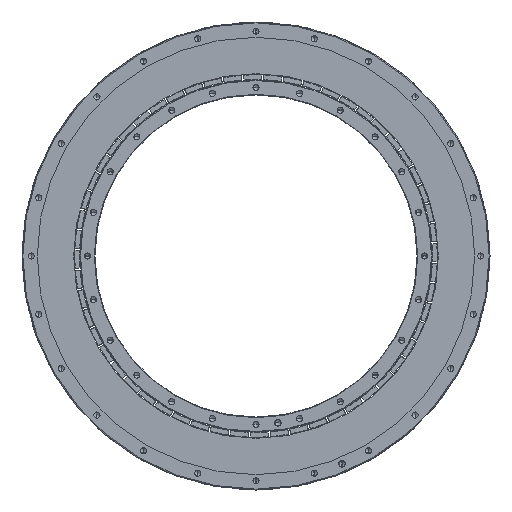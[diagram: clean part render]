
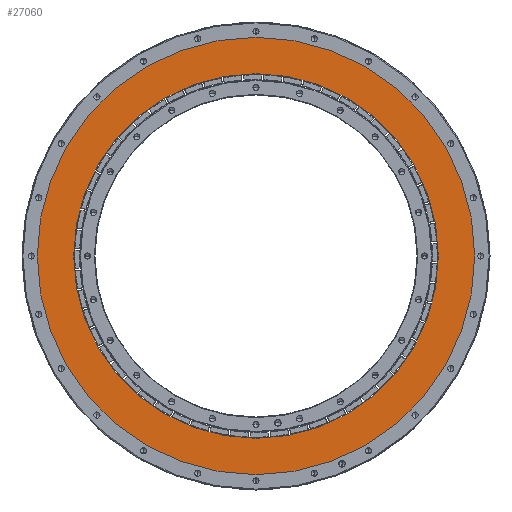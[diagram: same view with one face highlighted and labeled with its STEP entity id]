
A CAD part, front view. The second image highlights one B-rep face of the part: STEP entity #27060.
In plain terms, the highlighted planar face has unit normal (0, -1, 0).
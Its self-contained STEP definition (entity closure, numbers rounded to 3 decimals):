
#2353 = AXIS2_PLACEMENT_3D ( 'NONE', #22654, #35782, #19166 ) ;
#3346 = PLANE ( 'NONE',  #38227 ) ;
#5618 = ORIENTED_EDGE ( 'NONE', *, *, #18269, .F. ) ;
#6852 = VERTEX_POINT ( 'NONE', #13666 ) ;
#7797 = CARTESIAN_POINT ( 'NONE',  ( 0., -79., 0. ) ) ;
#7914 = CARTESIAN_POINT ( 'NONE',  ( 0., -79., 179.93 ) ) ;
#8099 = EDGE_CURVE ( 'NONE', #20396, #39696, #37208, .T. ) ;
#10173 = DIRECTION ( 'NONE',  ( 0., -1., 0. ) ) ;
#10603 = DIRECTION ( 'NONE',  ( 0., -1., 0. ) ) ;
#11697 = CIRCLE ( 'NONE', #17186, 179.93 ) ;
#13446 = CARTESIAN_POINT ( 'NONE',  ( 0., -79., -150. ) ) ;
#13509 = AXIS2_PLACEMENT_3D ( 'NONE', #40090, #10173, #23452 ) ;
#13666 = CARTESIAN_POINT ( 'NONE',  ( 0., -79., -179.93 ) ) ;
#14447 = EDGE_CURVE ( 'NONE', #6852, #28129, #11697, .T. ) ;
#17186 = AXIS2_PLACEMENT_3D ( 'NONE', #42703, #19061, #29102 ) ;
#18269 = EDGE_CURVE ( 'NONE', #39696, #20396, #28957, .T. ) ;
#18935 = ORIENTED_EDGE ( 'NONE', *, *, #35520, .T. ) ;
#19061 = DIRECTION ( 'NONE',  ( 0., -1., 0. ) ) ;
#19166 = DIRECTION ( 'NONE',  ( 0., 0., -1. ) ) ;
#20030 = FACE_OUTER_BOUND ( 'NONE', #34013, .T. ) ;
#20396 = VERTEX_POINT ( 'NONE', #41963 ) ;
#20657 = DIRECTION ( 'NONE',  ( 0., 0., -1. ) ) ;
#22654 = CARTESIAN_POINT ( 'NONE',  ( 0., -79., 0. ) ) ;
#23074 = ORIENTED_EDGE ( 'NONE', *, *, #14447, .T. ) ;
#23452 = DIRECTION ( 'NONE',  ( 0., 0., -1. ) ) ;
#27060 = ADVANCED_FACE ( 'NONE', ( #27195, #20030 ), #3346, .T. ) ;
#27195 = FACE_BOUND ( 'NONE', #36409, .T. ) ;
#28129 = VERTEX_POINT ( 'NONE', #7914 ) ;
#28957 = CIRCLE ( 'NONE', #30241, 150. ) ;
#29102 = DIRECTION ( 'NONE',  ( 0., 0., -1. ) ) ;
#30241 = AXIS2_PLACEMENT_3D ( 'NONE', #7797, #10603, #33497 ) ;
#30482 = CARTESIAN_POINT ( 'NONE',  ( 0., -79., 0. ) ) ;
#33497 = DIRECTION ( 'NONE',  ( 0., 0., -1. ) ) ;
#34013 = EDGE_LOOP ( 'NONE', ( #23074, #18935 ) ) ;
#35520 = EDGE_CURVE ( 'NONE', #28129, #6852, #37832, .T. ) ;
#35782 = DIRECTION ( 'NONE',  ( 0., -1., 0. ) ) ;
#36409 = EDGE_LOOP ( 'NONE', ( #5618, #39633 ) ) ;
#37208 = CIRCLE ( 'NONE', #13509, 150. ) ;
#37832 = CIRCLE ( 'NONE', #2353, 179.93 ) ;
#38227 = AXIS2_PLACEMENT_3D ( 'NONE', #30482, #40591, #20657 ) ;
#39633 = ORIENTED_EDGE ( 'NONE', *, *, #8099, .F. ) ;
#39696 = VERTEX_POINT ( 'NONE', #13446 ) ;
#40090 = CARTESIAN_POINT ( 'NONE',  ( 0., -79., 0. ) ) ;
#40591 = DIRECTION ( 'NONE',  ( 0., -1., 0. ) ) ;
#41963 = CARTESIAN_POINT ( 'NONE',  ( 0., -79., 150. ) ) ;
#42703 = CARTESIAN_POINT ( 'NONE',  ( 0., -79., 0. ) ) ;
